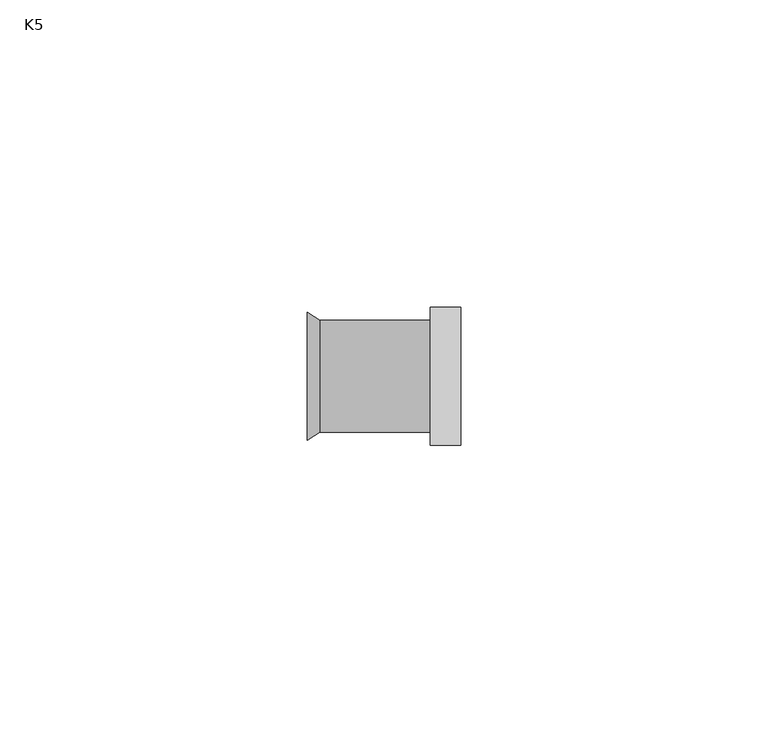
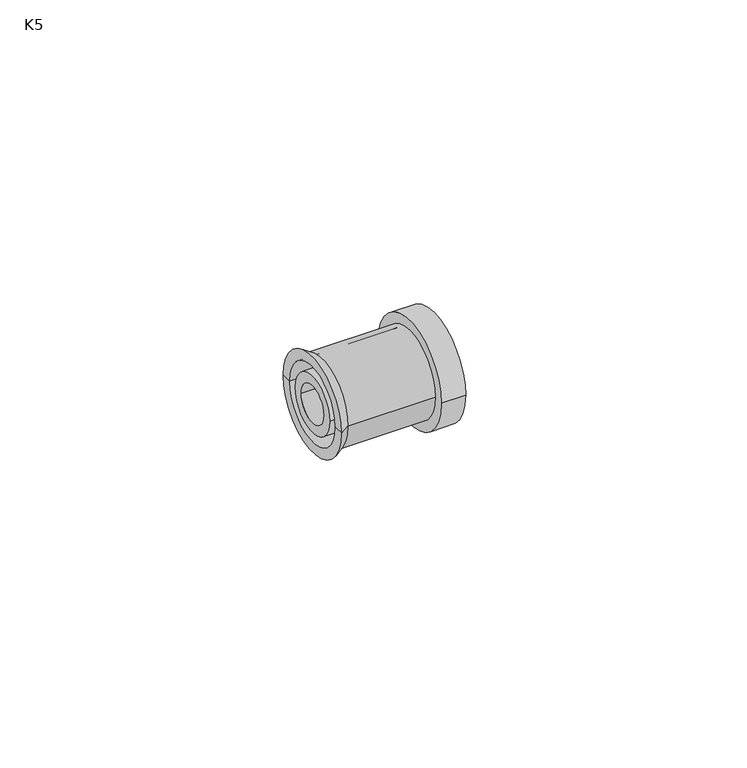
"""IFC4 building model written with IfcOpenShell, lengths in millimetres: pipe fitting geometry, SocketKMForTransition : K5."""

import ifcopenshell
import ifcopenshell.guid

model = None  # the IFC model being written
_history = None  # IfcOwnerHistory: only IFC2X3 demands one
_inside = {}  # id of a spatial element -> (the spatial element, [elements in it])
_under = {}  # id of a project, library or spatial element -> (it, [spatial elements below it])
_declared = {}  # id of a project -> (the project, [libraries it declares])
_typed = {}  # id of a type object -> (the type object, [elements of that type])
_made_of = {}  # id of a material, layer set ... -> (it, [elements and type objects made of it])


def new_model(schema):
    """Start an empty IFC model of exactly this schema.

    Asked for "IFC4X3", IfcOpenShell would pick the latest addendum, in which some entities
    have other attributes; the version numbers below select the first issue.
    IFC2X3 requires an IfcOwnerHistory on every rooted entity: one is made here for all.
    """
    global model, _history
    if schema == "IFC4X3":
        model = ifcopenshell.file(schema_version=(4, 3, 0, 0))
    else:
        model = ifcopenshell.file(schema=schema)
    _inside.clear()
    _under.clear()
    _declared.clear()
    _typed.clear()
    _made_of.clear()
    _history = None
    if model.schema == "IFC2X3":
        org = make("IfcOrganization", Name="unknown")
        user = make(
            "IfcPersonAndOrganization",
            ThePerson=make("IfcPerson", FamilyName="unknown"),
            TheOrganization=org,
        )
        app = make(
            "IfcApplication",
            ApplicationDeveloper=org,
            Version="unknown",
            ApplicationFullName="unknown",
            ApplicationIdentifier="unknown",
        )
        _history = make(
            "IfcOwnerHistory",
            OwningUser=user,
            OwningApplication=app,
            ChangeAction="ADDED",
            CreationDate=0,
        )
    return model


def make(cls, **values):
    """One entity of the class cls with the attributes given. An attribute that is None is left unset."""
    return model.create_entity(
        cls, **{name: value for name, value in values.items() if value is not None}
    )


def rooted(cls, **values):
    """An entity with a GlobalId (a new one), such as an element, a storey or a relation."""
    return make(cls, GlobalId=ifcopenshell.guid.new(), OwnerHistory=_history, **values)


def si_unit(unit_type, name, prefix=None):
    """IfcSIUnit, for example si_unit("LENGTHUNIT", "METRE", prefix="MILLI")."""
    return make("IfcSIUnit", UnitType=unit_type, Prefix=prefix, Name=name)


def assignment(units):
    """IfcUnitAssignment: the units of a project."""
    return None if units is None else make("IfcUnitAssignment", Units=units)


def point(xyz):
    """IfcCartesianPoint."""
    return None if xyz is None else make("IfcCartesianPoint", Coordinates=xyz)


def direction(xyz):
    """IfcDirection."""
    return None if xyz is None else make("IfcDirection", DirectionRatios=xyz)


def frame(location, z_axis=None, x_axis=None):
    """IfcAxis2Placement3D, a coordinate frame: its origin and axes. An axis left out is left unset."""
    return make(
        "IfcAxis2Placement3D",
        Location=point(location),
        Axis=direction(z_axis),
        RefDirection=direction(x_axis),
    )


def frame_2d(location, x_axis=None):
    """IfcAxis2Placement2D, a coordinate frame in the plane: its origin and x axis."""
    return make(
        "IfcAxis2Placement2D", Location=point(location), RefDirection=direction(x_axis)
    )


def origin():
    """The frame at (0, 0, 0) with its axes left unset."""
    return frame((0.0, 0.0, 0.0))


def origin_2d():
    """The frame at (0, 0) in the plane with its x axis left unset."""
    return frame_2d((0.0, 0.0))


def place(relative_to, where):
    """IfcLocalPlacement: puts the frame where relative to a parent placement (None: the world)."""
    return make(
        "IfcLocalPlacement", PlacementRelTo=relative_to, RelativePlacement=where
    )


def context(
    kind, dimensions, precision=None, world=None, true_north=None, identifier=None
):
    """IfcGeometricRepresentationContext, for example the 3D "Model" context."""
    return make(
        "IfcGeometricRepresentationContext",
        ContextIdentifier=identifier,
        ContextType=kind,
        CoordinateSpaceDimension=dimensions,
        Precision=precision,
        WorldCoordinateSystem=world,
        TrueNorth=true_north,
    )


def project(units=None, contexts=None):
    """IfcProject with its units and contexts."""
    return rooted(
        "IfcProject",
        Name="project",
        RepresentationContexts=contexts,
        UnitsInContext=assignment(units),
    )


def spatial(cls, under=None, at=None, **own):
    """A site, building, storey or space (cls), placed at a placement, below another one or the project."""
    s = rooted(cls, ObjectPlacement=at, **own)
    if under is not None:
        _under.setdefault(under.id(), (under, []))[1].append(s)
    return s


def polyline(points):
    """IfcPolyline through the points."""
    return make("IfcPolyline", Points=[point(p) for p in points])


def circle_curve(where, radius):
    """IfcCircle in the frame where."""
    return make("IfcCircle", Position=where, Radius=radius)


def trimmed(basis, trim1, trim2, sense, master):
    """IfcTrimmedCurve: the piece of a basis curve between two trims."""
    return make(
        "IfcTrimmedCurve",
        BasisCurve=basis,
        Trim1=trim1,
        Trim2=trim2,
        SenseAgreement=sense,
        MasterRepresentation=master,
    )


def segment(curve, same_sense, transition):
    """IfcCompositeCurveSegment."""
    return make(
        "IfcCompositeCurveSegment",
        Transition=transition,
        SameSense=same_sense,
        ParentCurve=curve,
    )


def composite_curve(segments, self_intersect=None):
    """IfcCompositeCurve: segments joined end to end."""
    return make("IfcCompositeCurve", Segments=segments, SelfIntersect=self_intersect)


def outline(outer, holes=None, kind="AREA"):
    """IfcArbitraryClosedProfileDef: a profile drawn as a closed curve; with holes, ...WithVoids."""
    if holes is None:
        return make("IfcArbitraryClosedProfileDef", ProfileType=kind, OuterCurve=outer)
    return make(
        "IfcArbitraryProfileDefWithVoids",
        ProfileType=kind,
        OuterCurve=outer,
        InnerCurves=holes,
    )


def extrude(swept, where, along, depth):
    """IfcExtrudedAreaSolid: the profile swept, set in the frame where, extruded along a direction by depth."""
    return make(
        "IfcExtrudedAreaSolid",
        SweptArea=swept,
        Position=where,
        ExtrudedDirection=direction(along),
        Depth=depth,
    )


def shape(context_of_items, identifier, shape_type, items):
    """IfcShapeRepresentation: the items that make up one representation, for example the "Body"."""
    return make(
        "IfcShapeRepresentation",
        ContextOfItems=context_of_items,
        RepresentationIdentifier=identifier,
        RepresentationType=shape_type,
        Items=items,
    )


def source(mapping_origin, context_of_items, identifier, shape_type, items):
    """IfcRepresentationMap: a shape defined once, which mapped items show again and again."""
    return make(
        "IfcRepresentationMap",
        MappingOrigin=mapping_origin,
        MappedRepresentation=shape(context_of_items, identifier, shape_type, items),
    )


def transform(
    local_origin,
    x_axis=None,
    y_axis=None,
    z_axis=None,
    scale=None,
    scale2=None,
    scale3=None,
    uniform=True,
):
    """IfcCartesianTransformationOperator3D, or its non-uniform kind. x_axis, y_axis, z_axis: its Axis1, 2, 3."""
    if uniform:
        return make(
            "IfcCartesianTransformationOperator3D",
            Axis1=direction(x_axis),
            Axis2=direction(y_axis),
            LocalOrigin=point(local_origin),
            Scale=scale,
            Axis3=direction(z_axis),
        )
    return make(
        "IfcCartesianTransformationOperator3DnonUniform",
        Axis1=direction(x_axis),
        Axis2=direction(y_axis),
        LocalOrigin=point(local_origin),
        Scale=scale,
        Axis3=direction(z_axis),
        Scale2=scale2,
        Scale3=scale3,
    )


def mapped(mapping_source, mapping_target):
    """IfcMappedItem: shows the shape of a source again, moved by a transform."""
    return make(
        "IfcMappedItem", MappingSource=mapping_source, MappingTarget=mapping_target
    )


def made_of(thing, what):
    """Note that an element or type object is made of a material, layer set ...; save() writes the relation."""
    if what is not None:
        _made_of.setdefault(what.id(), (what, []))[1].append(thing)
    return thing


def element(
    cls,
    number,
    at=None,
    inside=None,
    cuts=None,
    type_object=None,
    material=None,
    context=None,
    identifier="Body",
    shape_type=None,
    held_by="IfcProductDefinitionShape",
    body=None,
    shapes=None,
    **own,
):
    """One element of the class cls, such as IfcWall. Its Tag is "e" and its number.

    at: its placement. inside: the storey or other place that contains it. cuts: it is an
    opening in that element (IfcRelVoidsElement). A single representation is given by context,
    identifier, shape_type and body (its items); several are given by shapes. held_by: the class
    of the entity that holds the representations. save() writes the other relations.
    """
    e = rooted(cls, Tag="e%d" % number, ObjectPlacement=at, **own)
    if body is not None:
        shapes = [shape(context, identifier, shape_type, body)]
    if shapes is not None:
        e.Representation = make(held_by, Representations=shapes)
    if inside is not None:
        _inside.setdefault(inside.id(), (inside, []))[1].append(e)
    if cuts is not None:
        rooted(
            "IfcRelVoidsElement", RelatingBuildingElement=cuts, RelatedOpeningElement=e
        )
    if type_object is not None:
        _typed.setdefault(type_object.id(), (type_object, []))[1].append(e)
    return made_of(e, material)


def aggregate(whole, parts):
    """IfcRelAggregates: a whole, such as a stair, and the parts it consists of."""
    return rooted("IfcRelAggregates", RelatingObject=whole, RelatedObjects=parts)


def save(model, path):
    """Write the relations noted so far, then the file.

    IfcRelAggregates (storeys below a building ...), IfcRelContainedInSpatialStructure (elements
    in a storey), IfcRelDefinesByType, IfcRelAssociatesMaterial and IfcRelDeclares: one each for
    every whole, place, type object, material and project.
    """
    for whole, parts in _under.values():
        aggregate(whole, parts)
    for where, things in _inside.values():
        rooted(
            "IfcRelContainedInSpatialStructure",
            RelatedElements=things,
            RelatingStructure=where,
        )
    for kind, things in _typed.values():
        rooted("IfcRelDefinesByType", RelatedObjects=things, RelatingType=kind)
    for what, things in _made_of.values():
        rooted("IfcRelAssociatesMaterial", RelatedObjects=things, RelatingMaterial=what)
    for by, libraries in _declared.values():
        rooted("IfcRelDeclares", RelatingContext=by, RelatedDefinitions=libraries)
    model.write(path)


def plane_surface(at):
    """IfcPlane: the flat surface through the origin of the frame at, square to its z axis."""
    return make("IfcPlane", Position=at)


def cylinder_surface(at, radius):
    """IfcCylindricalSurface: all points at the distance radius from the z axis of the frame at."""
    return make("IfcCylindricalSurface", Position=at, Radius=radius)


def revolved_surface(curve, axis_point, axis_direction):
    """IfcSurfaceOfRevolution: the curve turned about the line through axis_point along axis_direction."""
    return make(
        "IfcSurfaceOfRevolution",
        SweptCurve=make("IfcArbitraryOpenProfileDef", ProfileType="CURVE", Curve=curve),
        AxisPosition=make("IfcAxis1Placement", Location=point(axis_point), Axis=direction(axis_direction)),
    )


def advanced_brep(points, edges, surfaces, faces):
    """IfcAdvancedBrep: a solid bounded by faces that lie on surfaces and meet in shared edges.

    An edge is (start, end): straight between two places in points (the first is 0);
    or (start, end, curve); or (start, end, curve, False) where it runs against its curve.
    A face is (place in surfaces, loops), or (place, loops, False) where it looks against
    its surface's normal. A loop lists edges by number (the first is 1), with a minus sign
    where the edge is run from its end to its start. The first loop is the outer one.
    """
    corners = [point(p) for p in points]
    vertices = [make("IfcVertexPoint", VertexGeometry=c) for c in corners]
    made = []
    for start, end, *more in edges:
        made.append(
            make(
                "IfcEdgeCurve",
                EdgeStart=vertices[start],
                EdgeEnd=vertices[end],
                EdgeGeometry=more[0] if more else make("IfcPolyline", Points=[corners[start], corners[end]]),
                SameSense=more[1] if len(more) > 1 else True,
            )
        )
    hull = []
    for where, loops, *sense in faces:
        bounds = []
        for j, loop in enumerate(loops):
            ring = [make("IfcOrientedEdge", EdgeElement=made[abs(k) - 1], Orientation=k > 0) for k in loop]
            bounds.append(
                make(
                    "IfcFaceOuterBound" if j == 0 else "IfcFaceBound",
                    Bound=make("IfcEdgeLoop", EdgeList=ring),
                    Orientation=True,
                )
            )
        hull.append(make("IfcAdvancedFace", Bounds=bounds, FaceSurface=surfaces[where], SameSense=sense[0] if sense else True))
    return make("IfcAdvancedBrep", Outer=make("IfcClosedShell", CfsFaces=hull))


def k5_70490e45(model_context):
    return source(origin(), model_context, "Body", "SolidModel", [
        advanced_brep(
        [(-25.0, -10.4, 0.0), (-25.0, 10.4, 0.0), (-22.9463094, 9.1, 0.0), (-22.9463094, -9.1, 0.0), (-25.0, -8.2, 0.0), (-25.0, 8.2, 0.0), (-5.0, -8.2, 0.0), (-5.0, 8.2, 0.0), (-5.0, -9.1, 0.0), (-5.0, 9.1, 0.0)],
        [
            (0, 1, circle_curve(frame((-25.0, 0.0, 0.0), z_axis=(1.0, 0.0, 0.0), x_axis=(0.0, 1.0, 0.0)), 10.4)),
            (1, 2),
            (2, 3, circle_curve(frame((-22.9463094, 0.0, 0.0), z_axis=(-1.0, 0.0, 0.0), x_axis=(0.0, 1.0, 0.0)), 9.1)),
            (3, 0),
            (1, 0, circle_curve(frame((-25.0, 0.0, 0.0), z_axis=(1.0, 0.0, 0.0), x_axis=(0.0, 1.0, 0.0)), 10.4)),
            (3, 2, circle_curve(frame((-22.9463094, 0.0, 0.0), z_axis=(-1.0, 0.0, 0.0), x_axis=(0.0, 1.0, 0.0)), 9.1)),
            (4, 5, circle_curve(frame((-25.0, 0.0, 0.0), z_axis=(1.0, 0.0, 0.0), x_axis=(0.0, 1.0, 0.0)), 8.2)),
            (5, 1),
            (0, 4),
            (5, 4, circle_curve(frame((-25.0, 0.0, 0.0), z_axis=(1.0, 0.0, 0.0), x_axis=(0.0, 1.0, 0.0)), 8.2)),
            (6, 7, circle_curve(frame((-5.0, 0.0, 0.0), z_axis=(1.0, 0.0, 0.0), x_axis=(0.0, 1.0, 0.0)), 8.2)),
            (7, 5),
            (4, 6),
            (7, 6, circle_curve(frame((-5.0, 0.0, 0.0), z_axis=(1.0, 0.0, 0.0), x_axis=(0.0, 1.0, 0.0)), 8.2)),
            (8, 9, circle_curve(frame((-5.0, 0.0, 0.0), z_axis=(1.0, 0.0, 0.0), x_axis=(0.0, 1.0, 0.0)), 9.1)),
            (9, 7),
            (6, 8),
            (9, 8, circle_curve(frame((-5.0, 0.0, 0.0), z_axis=(1.0, 0.0, 0.0), x_axis=(0.0, 1.0, 0.0)), 9.1)),
            (2, 9),
            (8, 3),
        ],
        [
            revolved_surface(polyline([(-22.9463094, 9.1, 0.0), (-25.0, 10.4, 0.0)]), (2000.0, 0.0, 0.0), (-1.0, 0.0, 0.0)),
            plane_surface(frame((-25.0, 0.0, 0.0), z_axis=(-1.0, 0.0, 0.0), x_axis=(0.0, 1.0, 0.0))),
            revolved_surface(polyline([(-25.0, 8.2, 0.0), (-5.0, 8.2, 0.0)]), (2000.0, 0.0, 0.0), (-1.0, 0.0, 0.0)),
            plane_surface(frame((-5.0, 0.0, 0.0), z_axis=(1.0, 0.0, 0.0), x_axis=(0.0, 1.0, 0.0))),
            cylinder_surface(frame((2000.0, 0.0, 0.0), z_axis=(-1.0, 0.0, 0.0), x_axis=(0.0, 1.0, 0.0)), 9.1),
        ],
        [
            (0, [[1, 2, 3, 4]]),
            (0, [[5, -4, 6, -2]]),
            (1, [[7, 8, -1, 9]]),
            (1, [[10, -9, -5, -8]]),
            (2, [[11, 12, -7, 13]]),
            (2, [[14, -13, -10, -12]]),
            (3, [[15, 16, -11, 17]]),
            (3, [[18, -17, -14, -16]]),
            (4, [[-3, 19, -15, 20]]),
            (4, [[-6, -20, -18, -19]]),
        ],
    ),
        extrude(outline(composite_curve([segment(trimmed(circle_curve(origin_2d(), 11.25), [point((-11.25, 0.0))], [point((11.25, 0.0))], False, "CARTESIAN"), True, "CONTINUOUS"), segment(trimmed(circle_curve(origin_2d(), 11.25), [point((11.25, 0.0))], [point((-11.25, 0.0))], False, "CARTESIAN"), True, "CONTINUOUS")], self_intersect=False)), frame((-5.0, 0.0, 0.0), z_axis=(1.0, 0.0, 0.0), x_axis=(0.0, 1.0, 0.0)), (0.0, 0.0, 1.0), 5.0),
        extrude(outline(composite_curve([segment(trimmed(circle_curve(origin_2d(), 6.1), [point((-6.1, 0.0))], [point((6.1, 0.0))], False, "CARTESIAN"), True, "CONTINUOUS"), segment(trimmed(circle_curve(origin_2d(), 6.1), [point((6.1, 0.0))], [point((-6.1, 0.0))], False, "CARTESIAN"), True, "CONTINUOUS")], self_intersect=False), holes=[composite_curve([segment(trimmed(circle_curve(origin_2d(), 4.0), [point((-4.0, 0.0))], [point((4.0, 0.0))], True, "CARTESIAN"), True, "CONTINUOUS"), segment(trimmed(circle_curve(origin_2d(), 4.0), [point((4.0, 0.0))], [point((-4.0, 0.0))], True, "CARTESIAN"), True, "CONTINUOUS")], self_intersect=False)]), frame((-25.0, 0.0, 0.0), z_axis=(1.0, 0.0, 0.0), x_axis=(0.0, 1.0, 0.0)), (0.0, 0.0, 1.0), 25.0),
    ])


if __name__ == "__main__":
    model = new_model("IFC4")
    model_context = context("Model", 3, world=origin())
    ifc_project = project(units=[si_unit("LENGTHUNIT", "METRE", prefix="MILLI")], contexts=[model_context])
    site = spatial("IfcSite", under=ifc_project)
    building = spatial("IfcBuilding", under=site)
    placement = place(None, origin())
    k5_shape = k5_70490e45(model_context)
    element("IfcPipeFitting", 1, ObjectType="SocketKMForTransition : K5", at=placement, inside=building, context=model_context, shape_type="MappedRepresentation", body=[
        mapped(k5_shape, transform((0.0, 0.0, 0.0), x_axis=(1.0, 0.0, 0.0), y_axis=(0.0, 1.0, 0.0), z_axis=(0.0, 0.0, 1.0))),
    ])
    save(model, "model.ifc")
